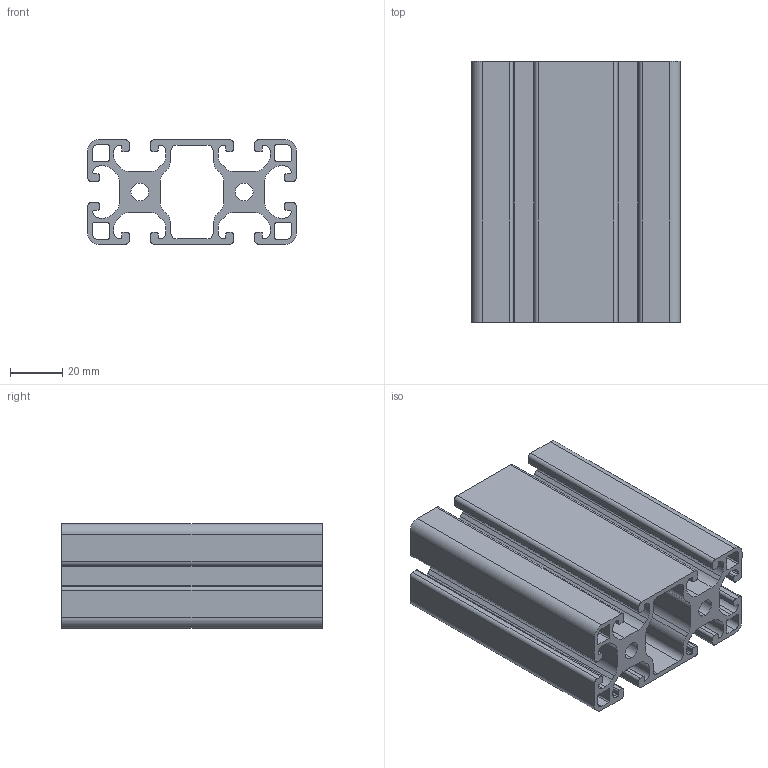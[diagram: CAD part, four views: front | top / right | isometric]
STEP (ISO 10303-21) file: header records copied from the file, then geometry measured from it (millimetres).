
FILE_DESCRIPTION (( 'STEP AP203' ), '1' );
FILE_NAME ('0108P8040L.STEP', '2024-02-29T10:52:43', ( 'Windows-Benutzer' ), ( '' ), 'SwSTEP 2.0', 'SolidWorks 2023', '' );
FILE_SCHEMA (( 'CONFIG_CONTROL_DESIGN' ));
Length unit declared in the file: millimetre
Products named in the file (1): 0108P8040L
Bounding box: 80 x 100 x 40 mm (x, y, z)
Volume: 113259.9 mm3; surface area: 78553.6 mm2
Topology: 1 solids, 1 shells, 226 faces, 672 edges, 448 vertices
Faces by surface type: cylinder 120, plane 106
Entity records: 7761 total; most frequent: DIRECTION 1366, CARTESIAN_POINT 1347, ORIENTED_EDGE 1344, EDGE_CURVE 672, AXIS2_PLACEMENT_3D 467, VERTEX_POINT 448, VECTOR 432, LINE 432
